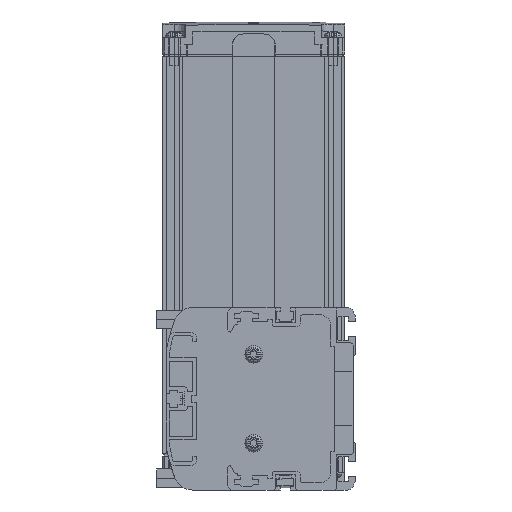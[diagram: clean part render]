
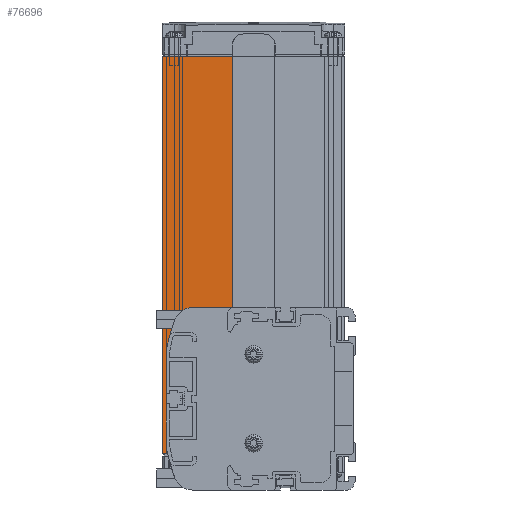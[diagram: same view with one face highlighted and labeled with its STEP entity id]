
A CAD part, left-side view. The second image highlights one B-rep face of the part: STEP entity #76696.
In plain terms, the highlighted planar face has unit normal (-1, 0, 0).
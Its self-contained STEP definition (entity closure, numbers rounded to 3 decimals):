
#75278=DIRECTION('',(0.,-1.,0.));
#75279=VECTOR('',#75278,17.9);
#75280=CARTESIAN_POINT('',(3.,70.5,27.5));
#75281=LINE('',#75280,#75279);
#75286=DIRECTION('',(0.,0.,1.));
#75287=VECTOR('',#75286,51.);
#75288=CARTESIAN_POINT('',(3.,70.5,-23.5));
#75289=LINE('',#75288,#75287);
#75294=DIRECTION('',(0.,-1.,0.));
#75295=VECTOR('',#75294,12.);
#75296=CARTESIAN_POINT('',(3.,82.5,-23.5));
#75297=LINE('',#75296,#75295);
#75298=DIRECTION('',(0.,0.,-1.));
#75299=VECTOR('',#75298,170.);
#75300=CARTESIAN_POINT('',(3.,82.5,146.5));
#75301=LINE('',#75300,#75299);
#75302=DIRECTION('',(0.,1.,0.));
#75303=VECTOR('',#75302,29.9);
#75304=CARTESIAN_POINT('',(3.,52.6,146.5));
#75305=LINE('',#75304,#75303);
#75340=DIRECTION('',(0.,0.,1.));
#75341=VECTOR('',#75340,119.);
#75342=CARTESIAN_POINT('',(3.,52.6,27.5));
#75343=LINE('',#75342,#75341);
#75497=CARTESIAN_POINT('',(3.,70.5,-23.5));
#75498=VERTEX_POINT('',#75497);
#75499=CARTESIAN_POINT('',(3.,82.5,-23.5));
#75500=VERTEX_POINT('',#75499);
#75635=CARTESIAN_POINT('',(3.,52.6,146.5));
#75636=VERTEX_POINT('',#75635);
#75637=CARTESIAN_POINT('',(3.,82.5,146.5));
#75638=VERTEX_POINT('',#75637);
#75695=CARTESIAN_POINT('',(3.,70.5,27.5));
#75696=CARTESIAN_POINT('',(3.,52.6,27.5));
#75697=VERTEX_POINT('',#75695);
#75698=VERTEX_POINT('',#75696);
#76681=CARTESIAN_POINT('',(3.,67.55,61.5));
#76682=DIRECTION('',(1.,0.,0.));
#76683=DIRECTION('',(0.,-1.,0.));
#76684=AXIS2_PLACEMENT_3D('',#76681,#76682,#76683);
#76685=PLANE('',#76684);
#76686=ORIENTED_EDGE('',*,*,#76657,.F.);
#76687=ORIENTED_EDGE('',*,*,#76674,.F.);
#76688=ORIENTED_EDGE('',*,*,#75802,.F.);
#76690=ORIENTED_EDGE('',*,*,#76689,.F.);
#76691=ORIENTED_EDGE('',*,*,#76213,.F.);
#76693=ORIENTED_EDGE('',*,*,#76692,.F.);
#76694=EDGE_LOOP('',(#76686,#76687,#76688,#76690,#76691,#76693));
#76695=FACE_OUTER_BOUND('',#76694,.F.);
#76696=ADVANCED_FACE('',(#76695),#76685,.F.);
#75802=EDGE_CURVE('',#75500,#75498,#75297,.T.);
#76213=EDGE_CURVE('',#75636,#75638,#75305,.T.);
#76657=EDGE_CURVE('',#75697,#75698,#75281,.T.);
#76674=EDGE_CURVE('',#75498,#75697,#75289,.T.);
#76689=EDGE_CURVE('',#75638,#75500,#75301,.T.);
#76692=EDGE_CURVE('',#75698,#75636,#75343,.T.);
